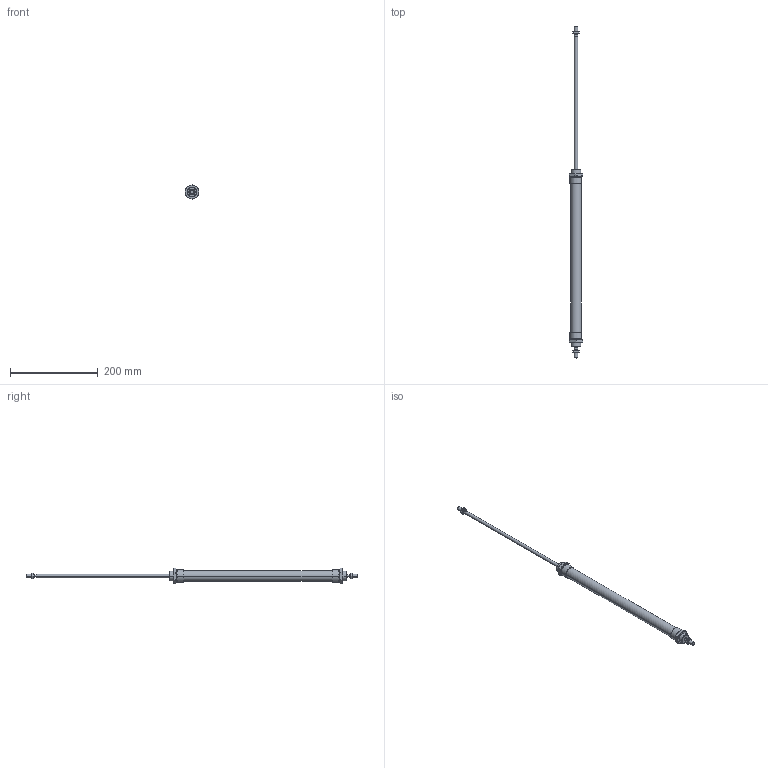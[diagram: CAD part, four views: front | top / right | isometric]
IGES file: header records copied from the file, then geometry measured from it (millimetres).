
Global section: file name: No Iges File Name specified; native system: AutoDesk Inventor R6.0; preprocessor: AutoDesk Inventor Iges Exporter R6.0; author: No Author specified; organization: No Organization specified; date: 20030403.072353; units: millimetre
Bounding box: 30 x 756 x 34.64 mm (x, y, z)
Volume: 208215.9 mm3; surface area: 66423.1 mm2
Topology: 6 solids, 6 shells, 186 faces, 414 edges, 244 vertices
Faces by surface type: cone 68, plane 60, bspline 32, cylinder 20, revolution 6
